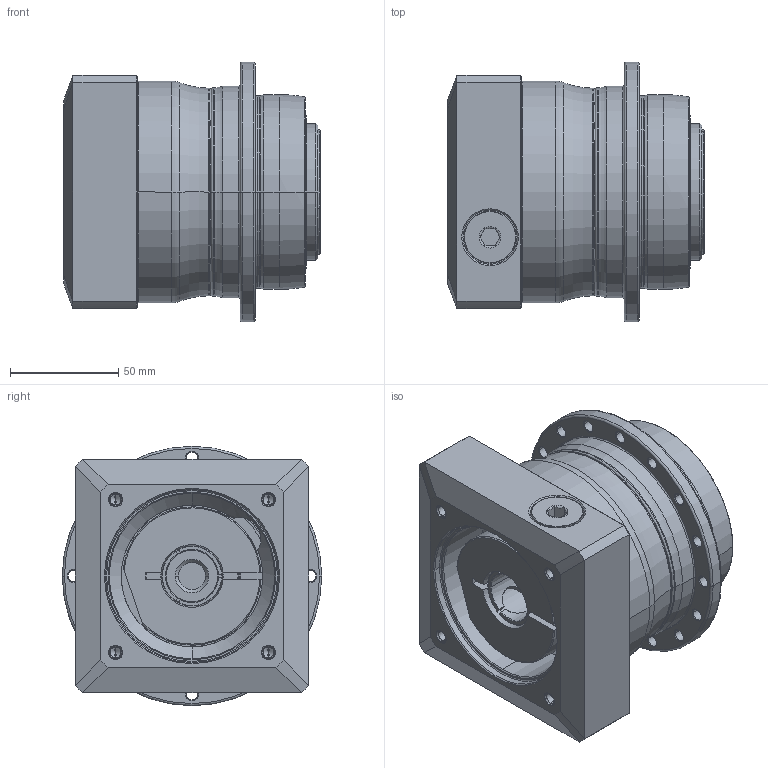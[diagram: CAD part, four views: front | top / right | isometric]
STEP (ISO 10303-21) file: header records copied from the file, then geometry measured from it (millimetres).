
FILE_DESCRIPTION((''),'2;1');
FILE_NAME('AP090_1ST_24-P0409510201_ASM','2018-10-16T',('d01226'),(''),'PRO/ENGINEER BY PARAMETRIC TECHNOLOGY CORPORATION, 2015240','PRO/ENGINEER BY PARAMETRIC TECHNOLOGY CORPORATION, 2015240','');
FILE_SCHEMA(('CONFIG_CONTROL_DESIGN'));
Length unit declared in the file: millimetre
Products named in the file (9): P0278301003; P0359301103; P1318310301; P0503500010; P0912303001; P1211300001; P0409510201; 21711418017; AP090_1ST_24-P0409510201_ASM
Assembly tree (8 placements, depth 2):
  AP090_1ST_24-P0409510201_ASM
    P0278301003
    P0359301103
    P1318310301
    P0503500010
    P0912303001
    P1211300001
    P0409510201
    21711418017
Bounding box: 118.5 x 120 x 120 mm (x, y, z)
Volume: 800529.4 mm3; surface area: 166353.2 mm2
Topology: 9 solids, 30 shells, 558 faces, 1298 edges, 802 vertices
Faces by surface type: cylinder 235, cone 143, plane 100, torus 66, bspline 14
Entity records: 21167 total; most frequent: CARTESIAN_POINT 7767, DIRECTION 3065, ORIENTED_EDGE 2494, AXIS2_PLACEMENT_3D 1311, EDGE_CURVE 1290, VERTEX_POINT 802, CIRCLE 740, EDGE_LOOP 682
